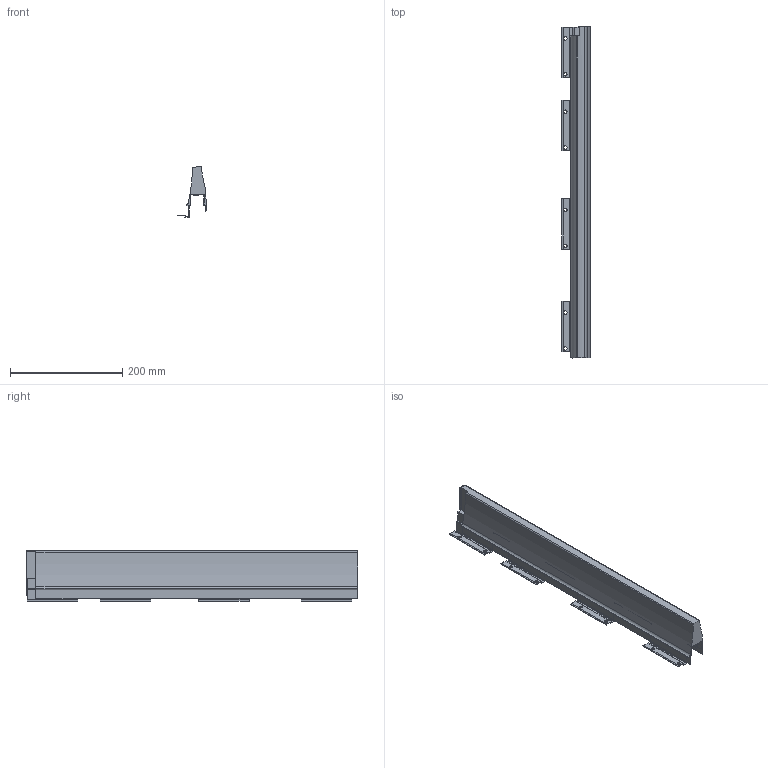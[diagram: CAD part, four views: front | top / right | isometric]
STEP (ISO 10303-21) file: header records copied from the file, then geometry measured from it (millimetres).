
FILE_DESCRIPTION (( 'STEP AP214' ), '1' );
FILE_NAME ('_XP Standard Dekorseite H95 NL600 RE .step', '2010-07-14T06:09:01', ( 'grass' ), ( '' ), 'SwSTEP 2.0', 'SolidWorks 2010', '' );
FILE_SCHEMA (( 'AUTOMOTIVE_DESIGN' ));
Length unit declared in the file: millimetre
Products named in the file (1): _XP Standard Dekorseite H95 NL600 RE 
Bounding box: 50.01 x 591.5 x 90 mm (x, y, z)
Volume: 724015.2 mm3; surface area: 195823 mm2
Topology: 1 solids, 1 shells, 161 faces, 474 edges, 308 vertices
Faces by surface type: plane 127, cylinder 34
Entity records: 5369 total; most frequent: ORIENTED_EDGE 948, CARTESIAN_POINT 944, DIRECTION 869, EDGE_CURVE 474, LINE 403, VECTOR 403, VERTEX_POINT 308, AXIS2_PLACEMENT_3D 233
